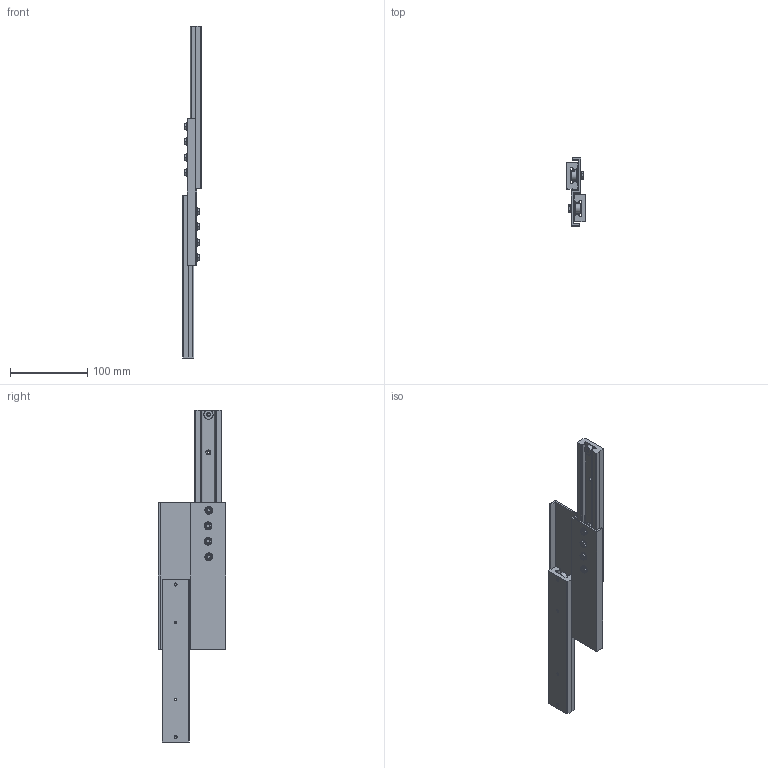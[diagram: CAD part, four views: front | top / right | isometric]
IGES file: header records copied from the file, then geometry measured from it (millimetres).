
Start section: SolidWorks IGES file using analytic representation for surfaces
Global section: file name: C:\Users\tsuch\OneDrive\デスクトップ\LSIMモジュール化図面\LSIM-DV(3D)\iges形式\LSIM35DV.IGS; native system: SolidWorks 2019; preprocessor: SolidWorks 2019; author: tsuch; date: 210614.084042; units: millimetre
Bounding box: 24 x 87.8 x 430 mm (x, y, z)
Surface area: 106128.5 mm2 (no closed solid volume)
Topology: 0 solids, 0 shells, 534 faces, 7612 edges, 7612 vertices
Faces by surface type: revolution 298, bspline 236
